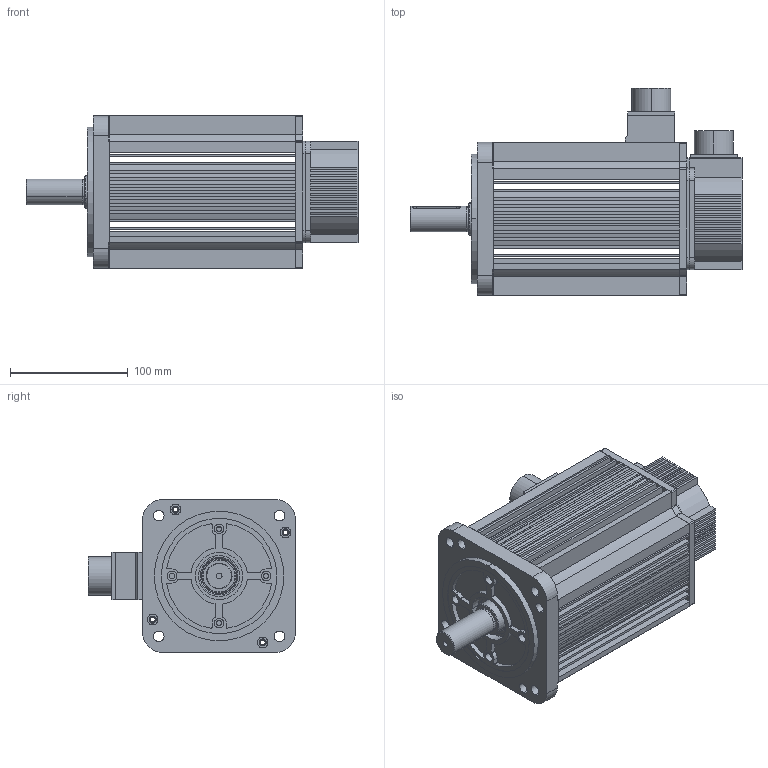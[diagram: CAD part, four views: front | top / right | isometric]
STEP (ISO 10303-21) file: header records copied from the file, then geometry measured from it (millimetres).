
FILE_DESCRIPTION (( 'STEP AP203' ), '1' );
FILE_NAME ('MS-130STE-M10030B-43P0.STEP', '2019-12-13T07:28:04', ( '' ), ( '' ), 'SwSTEP 2.0', 'SolidWorks 2016', '' );
FILE_SCHEMA (( 'CONFIG_CONTROL_DESIGN' ));
Length unit declared in the file: millimetre
Products named in the file (1): MS-130STE-M10030B-43P0
Bounding box: 282 x 176 x 130 mm (x, y, z)
Surface area: 222755.6 mm2 (no closed solid volume)
Topology: 0 solids, 34 shells, 624 faces, 1843 edges, 1267 vertices
Faces by surface type: plane 362, cylinder 250, cone 10, torus 2
Entity records: 20924 total; most frequent: CARTESIAN_POINT 3851, DIRECTION 3680, ORIENTED_EDGE 3210, EDGE_CURVE 1843, VERTEX_POINT 1267, VECTOR 1244, LINE 1244, AXIS2_PLACEMENT_3D 1218
